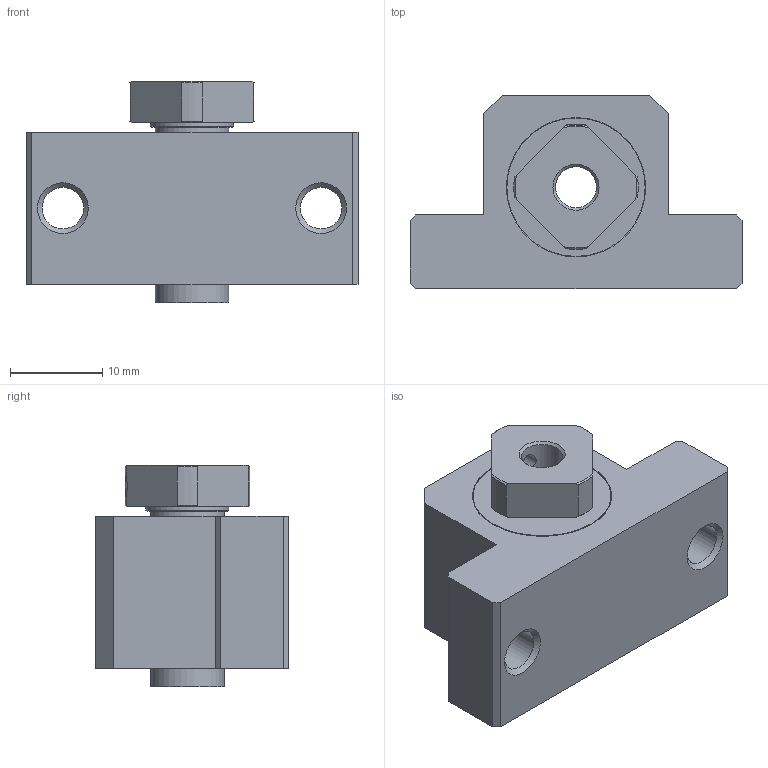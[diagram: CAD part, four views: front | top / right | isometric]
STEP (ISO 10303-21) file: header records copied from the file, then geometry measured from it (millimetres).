
FILE_DESCRIPTION(/* description */ ('STEP AP214'),/* implementation_level */ '2;1');
FILE_NAME(/* name */ 'EK5______CAD_NO_Yes',/* time_stamp */ '2026-09-17T12:51:39+02:00',/* author */ ('License CC BY-ND 4.0'),/* organization */ ('CADENAS'),/* preprocessor_version */ 'ST-DEVELOPER v20',/* originating_system */ 'PARTsolutions',/* authorisation */ ' ');
FILE_SCHEMA (('AUTOMOTIVE_DESIGN {1 0 10303 214 3 1 1}'));
Length unit declared in the file: millimetre
Products named in the file (4): EK5______CAD_NO_Yes; EK 5; EK 5collar; RN 5
Assembly tree (4 placements, depth 2):
  EK5______CAD_NO_Yes
    EK 5
    EK 5collar  x2
    RN 5
Bounding box: 36 x 21 x 24 mm (x, y, z)
Volume: 8924.1 mm3; surface area: 4410.3 mm2
Topology: 4 solids, 4 shells, 80 faces, 184 edges, 121 vertices
Faces by surface type: plane 42, cylinder 22, cone 16
Full cylindrical faces by diameter (mm): 2.113 x1, 2.6 x1, 4.459 x1, 4.5 x2, 5 x3, 8 x4, 9 x1, 15 x2, 15.1 x2
Entity records: 2182 total; most frequent: CARTESIAN_POINT 411, DIRECTION 348, ORIENTED_EDGE 302, EDGE_CURVE 151, AXIS2_PLACEMENT_3D 135, EDGE_LOOP 118, FACE_BOUND 118, VERTEX_POINT 113
